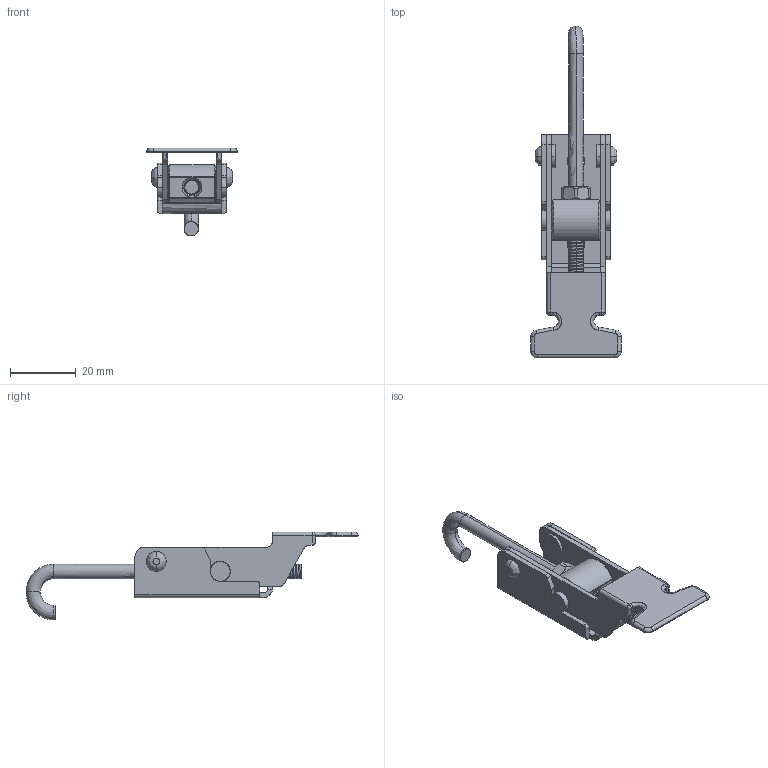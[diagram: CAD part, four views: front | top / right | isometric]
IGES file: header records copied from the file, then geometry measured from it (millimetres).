
Start section: SolidWorks IGES file using analytic representation for surfaces
Global section: file name: D:\由鑫國際內部資料\內部資料\3D圖檔\TH-40326\TH-40326.IGS,15HSolidWorks; native system: 2008; preprocessor: SolidWorks 2008; author: Administrator; date: 091201.142447; units: millimetre
Bounding box: 27.6 x 101.2 x 26.8 mm (x, y, z)
Surface area: 10574.9 mm2 (no closed solid volume)
Topology: 0 solids, 0 shells, 355 faces, 7169 edges, 7159 vertices
Faces by surface type: revolution 257, bspline 98
